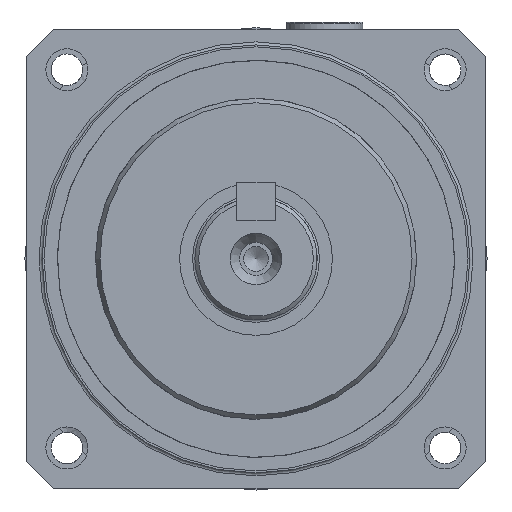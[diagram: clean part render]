
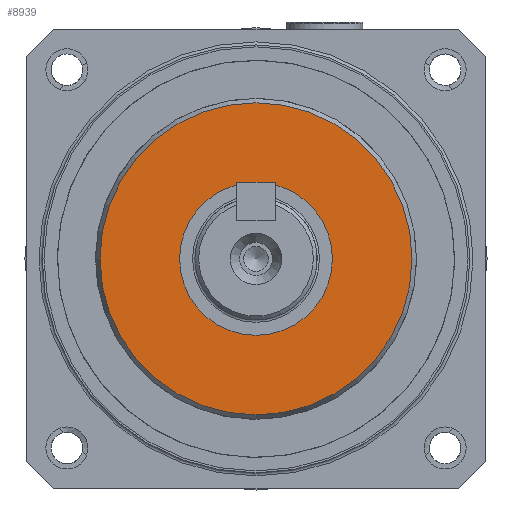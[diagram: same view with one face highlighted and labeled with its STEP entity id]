
A CAD part, left-side view. The second image highlights one B-rep face of the part: STEP entity #8939.
In plain terms, the highlighted planar face has unit normal (-1, 0, 0).
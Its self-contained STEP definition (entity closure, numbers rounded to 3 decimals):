
#773=FACE_BOUND('',#2418,.T.);
#1683=PLANE('',#10004);
#1885=FACE_OUTER_BOUND('',#2417,.T.);
#2417=EDGE_LOOP('',(#6597));
#2418=EDGE_LOOP('',(#6598,#6599));
#3080=CIRCLE('',#10000,20.423);
#3083=CIRCLE('',#10005,10.);
#3084=CIRCLE('',#10006,10.);
#4004=VERTEX_POINT('',#14859);
#4007=VERTEX_POINT('',#14869);
#4008=VERTEX_POINT('',#14870);
#5087=EDGE_CURVE('',#4004,#4004,#3080,.T.);
#5091=EDGE_CURVE('',#4007,#4008,#3083,.T.);
#5092=EDGE_CURVE('',#4008,#4007,#3084,.T.);
#6597=ORIENTED_EDGE('',*,*,#5087,.F.);
#6598=ORIENTED_EDGE('',*,*,#5091,.T.);
#6599=ORIENTED_EDGE('',*,*,#5092,.T.);
#8939=ADVANCED_FACE('',(#1885,#773),#1683,.T.);
#10000=AXIS2_PLACEMENT_3D('',#14861,#11630,#11631);
#10004=AXIS2_PLACEMENT_3D('',#14868,#11639,#11640);
#10005=AXIS2_PLACEMENT_3D('',#14871,#11641,#11642);
#10006=AXIS2_PLACEMENT_3D('',#14872,#11643,#11644);
#11630=DIRECTION('center_axis',(1.,0.,0.));
#11631=DIRECTION('ref_axis',(0.,-1.,0.));
#11639=DIRECTION('center_axis',(-1.,0.,0.));
#11640=DIRECTION('ref_axis',(0.,0.,1.));
#11641=DIRECTION('center_axis',(1.,0.,0.));
#11642=DIRECTION('ref_axis',(0.,0.,-1.));
#11643=DIRECTION('center_axis',(1.,0.,0.));
#11644=DIRECTION('ref_axis',(0.,0.,-1.));
#14859=CARTESIAN_POINT('',(0.,20.423,0.));
#14861=CARTESIAN_POINT('Origin',(0.,0.,0.));
#14868=CARTESIAN_POINT('Origin',(0.,21.,0.));
#14869=CARTESIAN_POINT('',(0.,10.,0.));
#14870=CARTESIAN_POINT('',(0.,-10.,0.));
#14871=CARTESIAN_POINT('Origin',(0.,0.,0.));
#14872=CARTESIAN_POINT('Origin',(0.,0.,0.));
